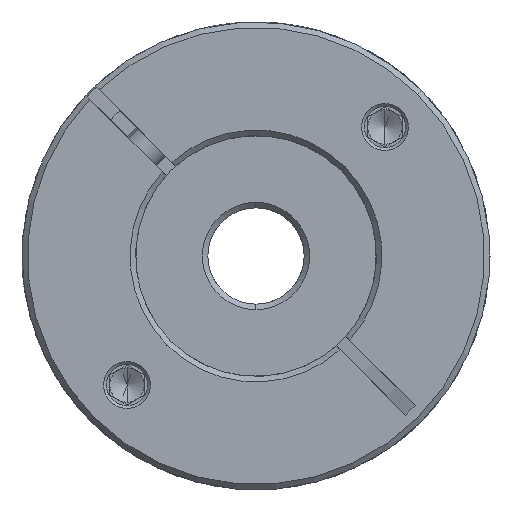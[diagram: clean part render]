
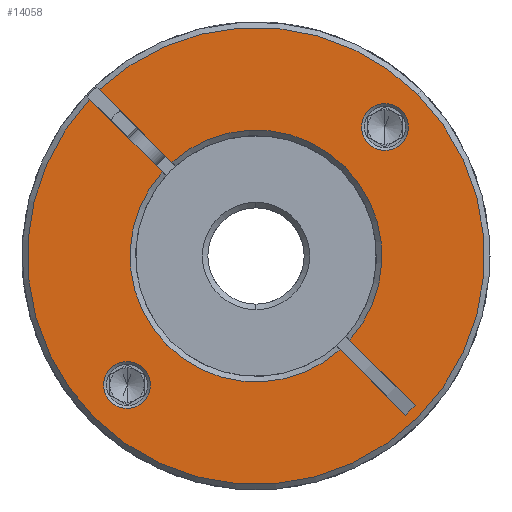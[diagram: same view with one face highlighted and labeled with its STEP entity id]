
A CAD part, front view. The second image highlights one B-rep face of the part: STEP entity #14058.
In plain terms, the highlighted planar face has unit normal (0, -1, 0).
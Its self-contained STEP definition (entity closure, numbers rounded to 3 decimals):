
#9 = DIRECTION ( 'NONE',  ( 0.707, 0., -0.707 ) ) ;
#124 = ORIENTED_EDGE ( 'NONE', *, *, #10084, .F. ) ;
#219 = DIRECTION ( 'NONE',  ( 0., -1., 0. ) ) ;
#321 = DIRECTION ( 'NONE',  ( 0., 1., 0. ) ) ;
#727 = CARTESIAN_POINT ( 'NONE',  ( 16.003, -67.045, 86.738 ) ) ;
#895 = AXIS2_PLACEMENT_3D ( 'NONE', #21132, #15861, #21061 ) ;
#1222 = ORIENTED_EDGE ( 'NONE', *, *, #9363, .T. ) ;
#1365 = DIRECTION ( 'NONE',  ( 0.707, 0., 0.707 ) ) ;
#1494 = EDGE_CURVE ( 'NONE', #7300, #12381, #9234, .T. ) ;
#1555 = CARTESIAN_POINT ( 'NONE',  ( -26.211, -67.045, 44.524 ) ) ;
#1670 = EDGE_CURVE ( 'NONE', #8448, #13176, #2970, .T. ) ;
#1995 = VERTEX_POINT ( 'NONE', #9230 ) ;
#2039 = CIRCLE ( 'NONE', #19784, 33.2 ) ;
#2420 = VERTEX_POINT ( 'NONE', #5561 ) ;
#2552 = DIRECTION ( 'NONE',  ( 0.707, 0., -0.707 ) ) ;
#2559 = DIRECTION ( 'NONE',  ( 0.707, 0., 0.707 ) ) ;
#2634 = CIRCLE ( 'NONE', #14541, 3.4 ) ;
#2671 = ORIENTED_EDGE ( 'NONE', *, *, #19874, .T. ) ;
#2795 = EDGE_LOOP ( 'NONE', ( #10814, #1222, #20390, #19535, #3145, #13534, #11847, #12069, #6122, #124, #2671 ) ) ;
#2847 = AXIS2_PLACEMENT_3D ( 'NONE', #19488, #14610, #7936 ) ;
#2862 = DIRECTION ( 'NONE',  ( 0., -1., 0. ) ) ;
#2878 = VERTEX_POINT ( 'NONE', #5538 ) ;
#2970 = CIRCLE ( 'NONE', #895, 3.4 ) ;
#3027 = CARTESIAN_POINT ( 'NONE',  ( -19.069, -67.045, 51.666 ) ) ;
#3042 = EDGE_CURVE ( 'NONE', #12381, #7300, #2634, .T. ) ;
#3145 = ORIENTED_EDGE ( 'NONE', *, *, #15605, .T. ) ;
#3379 = EDGE_CURVE ( 'NONE', #2420, #1995, #16138, .T. ) ;
#3895 = EDGE_CURVE ( 'NONE', #1995, #2878, #8356, .T. ) ;
#4238 = AXIS2_PLACEMENT_3D ( 'NONE', #18668, #18436, #8713 ) ;
#4350 = LINE ( 'NONE', #9778, #15020 ) ;
#4485 = DIRECTION ( 'NONE',  ( 0.707, 0., -0.707 ) ) ;
#4524 = DIRECTION ( 'NONE',  ( 0., 1., 0. ) ) ;
#4649 = CARTESIAN_POINT ( 'NONE',  ( 20.741, -67.045, 91.476 ) ) ;
#4849 = CARTESIAN_POINT ( 'NONE',  ( -2.735, -67.045, 68. ) ) ;
#4931 = VERTEX_POINT ( 'NONE', #18121 ) ;
#4975 = CARTESIAN_POINT ( 'NONE',  ( -21.473, -67.045, 49.262 ) ) ;
#5002 = EDGE_LOOP ( 'NONE', ( #20661, #20495 ) ) ;
#5139 = PLANE ( 'NONE',  #11858 ) ;
#5147 = VECTOR ( 'NONE', #2552, 1000. ) ;
#5252 = EDGE_LOOP ( 'NONE', ( #21354, #9449 ) ) ;
#5346 = VERTEX_POINT ( 'NONE', #7126 ) ;
#5538 = CARTESIAN_POINT ( 'NONE',  ( 10.893, -67.045, 55.786 ) ) ;
#5561 = CARTESIAN_POINT ( 'NONE',  ( -14.949, -67.045, 81.628 ) ) ;
#6120 = EDGE_CURVE ( 'NONE', #19660, #5346, #2039, .T. ) ;
#6122 = ORIENTED_EDGE ( 'NONE', *, *, #15441, .T. ) ;
#6147 = DIRECTION ( 'NONE',  ( 0., 1., 0. ) ) ;
#6149 = EDGE_CURVE ( 'NONE', #10263, #13960, #4350, .T. ) ;
#6487 = AXIS2_PLACEMENT_3D ( 'NONE', #19513, #4524, #9536 ) ;
#6667 = AXIS2_PLACEMENT_3D ( 'NONE', #12506, #16928, #2559 ) ;
#7126 = CARTESIAN_POINT ( 'NONE',  ( -25.493, -67.045, 92.172 ) ) ;
#7170 = CARTESIAN_POINT ( 'NONE',  ( 13.599, -67.045, 84.334 ) ) ;
#7300 = VERTEX_POINT ( 'NONE', #3027 ) ;
#7479 = LINE ( 'NONE', #15962, #5147 ) ;
#7535 = CARTESIAN_POINT ( 'NONE',  ( 20.402, -67.045, 46.277 ) ) ;
#7936 = DIRECTION ( 'NONE',  ( 0.707, 0., 0.707 ) ) ;
#8097 = CARTESIAN_POINT ( 'NONE',  ( -23.878, -67.045, 46.858 ) ) ;
#8335 = VECTOR ( 'NONE', #20519, 1000. ) ;
#8356 = CIRCLE ( 'NONE', #6487, 18.3 ) ;
#8448 = VERTEX_POINT ( 'NONE', #12470 ) ;
#8713 = DIRECTION ( 'NONE',  ( 0.707, 0., 0.707 ) ) ;
#9035 = EDGE_CURVE ( 'NONE', #2878, #9565, #7479, .T. ) ;
#9230 = CARTESIAN_POINT ( 'NONE',  ( 10.205, -67.045, 80.94 ) ) ;
#9234 = CIRCLE ( 'NONE', #18554, 3.4 ) ;
#9340 = LINE ( 'NONE', #20583, #8335 ) ;
#9363 = EDGE_CURVE ( 'NONE', #10263, #21264, #17585, .T. ) ;
#9449 = ORIENTED_EDGE ( 'NONE', *, *, #3042, .T. ) ;
#9536 = DIRECTION ( 'NONE',  ( 0.707, 0., 0.707 ) ) ;
#9565 = VERTEX_POINT ( 'NONE', #7535 ) ;
#9778 = CARTESIAN_POINT ( 'NONE',  ( -3.442, -67.045, 67.293 ) ) ;
#9863 = DIRECTION ( 'NONE',  ( 0.707, 0., -0.707 ) ) ;
#10084 = EDGE_CURVE ( 'NONE', #4931, #18761, #13422, .T. ) ;
#10263 = VERTEX_POINT ( 'NONE', #16879 ) ;
#10567 = AXIS2_PLACEMENT_3D ( 'NONE', #11831, #321, #15238 ) ;
#10814 = ORIENTED_EDGE ( 'NONE', *, *, #6149, .F. ) ;
#10923 = FACE_OUTER_BOUND ( 'NONE', #2795, .T. ) ;
#11102 = CIRCLE ( 'NONE', #16508, 3.4 ) ;
#11286 = CARTESIAN_POINT ( 'NONE',  ( -2.735, -67.045, 68. ) ) ;
#11646 = DIRECTION ( 'NONE',  ( 0.707, 0., 0.707 ) ) ;
#11831 = CARTESIAN_POINT ( 'NONE',  ( -2.735, -67.045, 68. ) ) ;
#11847 = ORIENTED_EDGE ( 'NONE', *, *, #3895, .T. ) ;
#11858 = AXIS2_PLACEMENT_3D ( 'NONE', #4849, #219, #16597 ) ;
#12069 = ORIENTED_EDGE ( 'NONE', *, *, #9035, .T. ) ;
#12381 = VERTEX_POINT ( 'NONE', #8097 ) ;
#12470 = CARTESIAN_POINT ( 'NONE',  ( 18.407, -67.045, 89.142 ) ) ;
#12506 = CARTESIAN_POINT ( 'NONE',  ( -2.735, -67.045, 68. ) ) ;
#12918 = CARTESIAN_POINT ( 'NONE',  ( -2.028, -67.045, 68.707 ) ) ;
#13176 = VERTEX_POINT ( 'NONE', #7170 ) ;
#13422 = LINE ( 'NONE', #17862, #20716 ) ;
#13534 = ORIENTED_EDGE ( 'NONE', *, *, #3379, .T. ) ;
#13960 = VERTEX_POINT ( 'NONE', #16076 ) ;
#14058 = ADVANCED_FACE ( 'NONE', ( #19635, #16861, #10923 ), #5139, .T. ) ;
#14541 = AXIS2_PLACEMENT_3D ( 'NONE', #14772, #21496, #14840 ) ;
#14610 = DIRECTION ( 'NONE',  ( 0., 1., 0. ) ) ;
#14772 = CARTESIAN_POINT ( 'NONE',  ( -21.473, -67.045, 49.262 ) ) ;
#14840 = DIRECTION ( 'NONE',  ( 0.707, 0., 0.707 ) ) ;
#15020 = VECTOR ( 'NONE', #9, 1000. ) ;
#15238 = DIRECTION ( 'NONE',  ( 0.707, 0., 0.707 ) ) ;
#15245 = CARTESIAN_POINT ( 'NONE',  ( 18.988, -67.045, 44.862 ) ) ;
#15441 = EDGE_CURVE ( 'NONE', #9565, #18761, #9340, .T. ) ;
#15605 = EDGE_CURVE ( 'NONE', #5346, #2420, #16866, .T. ) ;
#15861 = DIRECTION ( 'NONE',  ( 0., 1., 0. ) ) ;
#15962 = CARTESIAN_POINT ( 'NONE',  ( -2.028, -67.045, 68.707 ) ) ;
#16076 = CARTESIAN_POINT ( 'NONE',  ( -16.363, -67.045, 80.214 ) ) ;
#16138 = CIRCLE ( 'NONE', #2847, 18.3 ) ;
#16508 = AXIS2_PLACEMENT_3D ( 'NONE', #727, #6147, #18893 ) ;
#16597 = DIRECTION ( 'NONE',  ( 0.707, 0., 0.707 ) ) ;
#16652 = EDGE_CURVE ( 'NONE', #13176, #8448, #11102, .T. ) ;
#16717 = DIRECTION ( 'NONE',  ( 0., 1., 0. ) ) ;
#16861 = FACE_BOUND ( 'NONE', #5252, .T. ) ;
#16866 = LINE ( 'NONE', #12918, #19773 ) ;
#16879 = CARTESIAN_POINT ( 'NONE',  ( -26.908, -67.045, 90.758 ) ) ;
#16928 = DIRECTION ( 'NONE',  ( 0., -1., 0. ) ) ;
#17585 = CIRCLE ( 'NONE', #4238, 33.2 ) ;
#17781 = CIRCLE ( 'NONE', #10567, 18.3 ) ;
#17862 = CARTESIAN_POINT ( 'NONE',  ( -3.442, -67.045, 67.293 ) ) ;
#18121 = CARTESIAN_POINT ( 'NONE',  ( 9.479, -67.045, 54.372 ) ) ;
#18436 = DIRECTION ( 'NONE',  ( 0., -1., 0. ) ) ;
#18554 = AXIS2_PLACEMENT_3D ( 'NONE', #4975, #16717, #11646 ) ;
#18668 = CARTESIAN_POINT ( 'NONE',  ( -2.735, -67.045, 68. ) ) ;
#18761 = VERTEX_POINT ( 'NONE', #15245 ) ;
#18813 = CIRCLE ( 'NONE', #6667, 33.2 ) ;
#18893 = DIRECTION ( 'NONE',  ( 0.707, 0., 0.707 ) ) ;
#19222 = EDGE_CURVE ( 'NONE', #21264, #19660, #18813, .T. ) ;
#19488 = CARTESIAN_POINT ( 'NONE',  ( -2.735, -67.045, 68. ) ) ;
#19513 = CARTESIAN_POINT ( 'NONE',  ( -2.735, -67.045, 68. ) ) ;
#19535 = ORIENTED_EDGE ( 'NONE', *, *, #6120, .T. ) ;
#19635 = FACE_BOUND ( 'NONE', #5002, .T. ) ;
#19660 = VERTEX_POINT ( 'NONE', #4649 ) ;
#19773 = VECTOR ( 'NONE', #9863, 1000. ) ;
#19784 = AXIS2_PLACEMENT_3D ( 'NONE', #11286, #2862, #1365 ) ;
#19874 = EDGE_CURVE ( 'NONE', #4931, #13960, #17781, .T. ) ;
#20390 = ORIENTED_EDGE ( 'NONE', *, *, #19222, .T. ) ;
#20495 = ORIENTED_EDGE ( 'NONE', *, *, #16652, .T. ) ;
#20519 = DIRECTION ( 'NONE',  ( -0.707, 0., -0.707 ) ) ;
#20583 = CARTESIAN_POINT ( 'NONE',  ( 18.988, -67.045, 44.862 ) ) ;
#20661 = ORIENTED_EDGE ( 'NONE', *, *, #1670, .T. ) ;
#20716 = VECTOR ( 'NONE', #4485, 1000. ) ;
#21061 = DIRECTION ( 'NONE',  ( 0.707, 0., 0.707 ) ) ;
#21132 = CARTESIAN_POINT ( 'NONE',  ( 16.003, -67.045, 86.738 ) ) ;
#21264 = VERTEX_POINT ( 'NONE', #1555 ) ;
#21354 = ORIENTED_EDGE ( 'NONE', *, *, #1494, .T. ) ;
#21496 = DIRECTION ( 'NONE',  ( 0., 1., 0. ) ) ;
